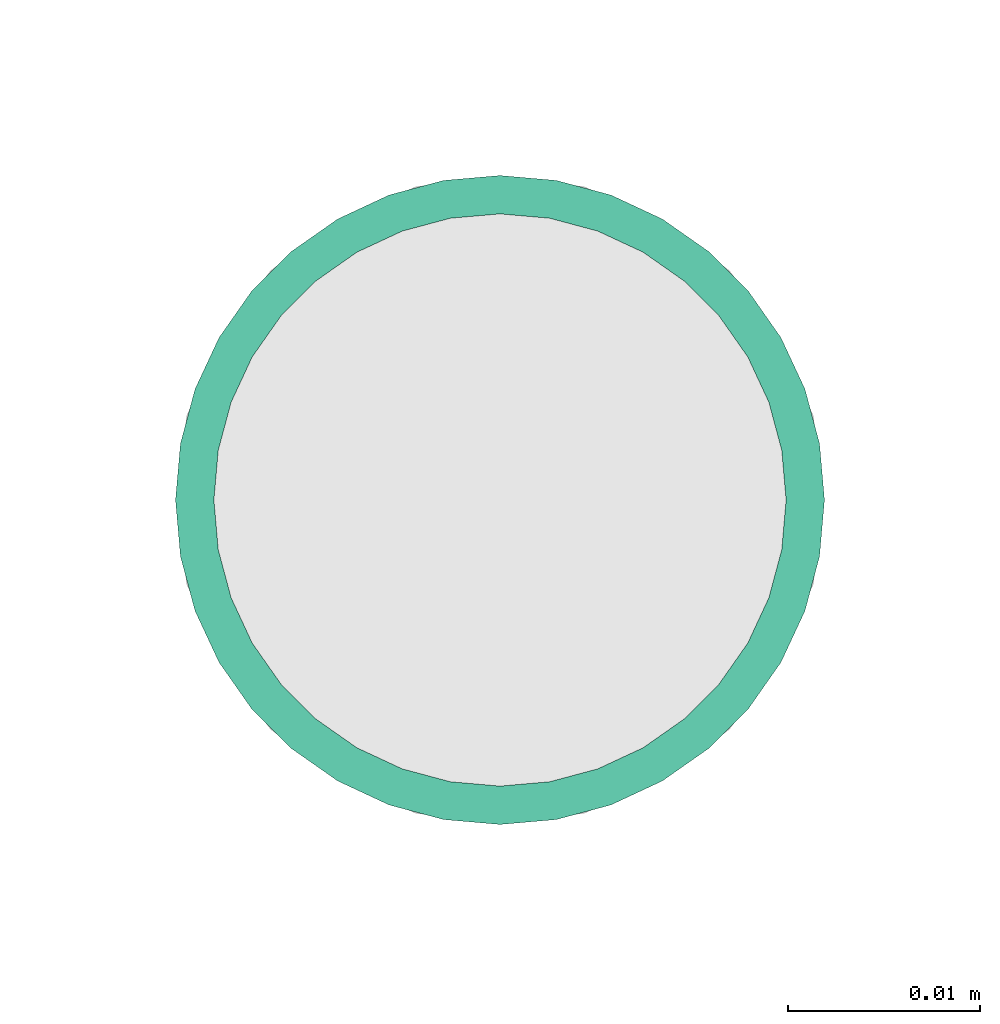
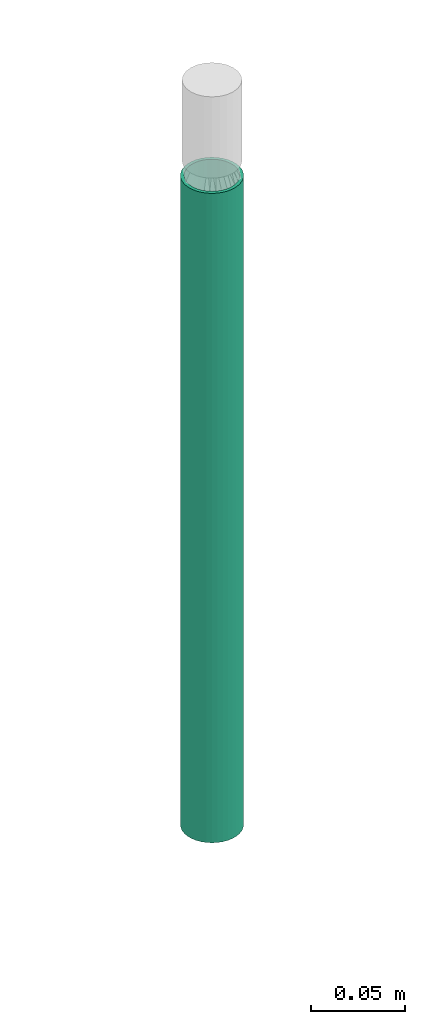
# One storey, part 10 of 14: 1 flow segment.
"""IFC2X3 building model written with IfcOpenShell, lengths in millimetres."""

from ifc_helpers import new_model, entity, si_unit, converted_unit, derived_unit, direction, frame, place, context, subcontext, project, spatial, faceted_brep, type_object, element, save


model = new_model("IFC2X3")

# Units and contexts
model_context = context("Model", 3, precision=0.01, world=frame((0.0, 4.29681676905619e-09, 0.0)), true_north=direction((4.01073788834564e-13, 1.0)))
plan_context = context("Plan", 3, precision=0.01, world=frame((0.0, 4.29681676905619e-09, 0.0)), true_north=direction((4.01073788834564e-13, 1.0)))
body_context = subcontext(model_context, "Body", "Model", "MODEL_VIEW")
ifc_project = project(units=[converted_unit("PLANEANGLEUNIT", "DEGREE", entity("IfcPositiveLengthMeasure", 0.0174532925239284), si_unit("PLANEANGLEUNIT", "RADIAN"), dimensions=[0, 0, 0, 0, 0, 0, 0]), si_unit("AREAUNIT", "SQUARE_METRE"), si_unit("LENGTHUNIT", "METRE", prefix="MILLI"), si_unit("MASSUNIT", "GRAM", prefix="KILO"), si_unit("POWERUNIT", "WATT"), si_unit("PRESSUREUNIT", "PASCAL", prefix="KILO"), si_unit("FORCEUNIT", "NEWTON", prefix="KILO"), si_unit("ELECTRICVOLTAGEUNIT", "VOLT"), si_unit("ELECTRICCURRENTUNIT", "AMPERE"), si_unit("THERMODYNAMICTEMPERATUREUNIT", "DEGREE_CELSIUS"), si_unit("TIMEUNIT", "SECOND"), si_unit("VOLUMEUNIT", "CUBIC_METRE"), derived_unit("LINEARVELOCITYUNIT", [(si_unit("LENGTHUNIT", "METRE"), 1), (si_unit("TIMEUNIT", "SECOND"), -1)]), derived_unit("VOLUMETRICFLOWRATEUNIT", [(si_unit("VOLUMEUNIT", "CUBIC_METRE"), 1), (si_unit("TIMEUNIT", "SECOND"), -1)]), derived_unit("THERMALTRANSMITTANCEUNIT", [(si_unit("POWERUNIT", "WATT"), 1), (si_unit("THERMODYNAMICTEMPERATUREUNIT", "KELVIN"), -1), (si_unit("AREAUNIT", "SQUARE_METRE"), -1)]), derived_unit("SOUNDPRESSUREUNIT", [(si_unit("PRESSUREUNIT", "PASCAL"), 1)])], contexts=[model_context, plan_context])

# Site, building, storey
site_placement = place(None, frame((0.0, -4.29681676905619e-09, 0.0), z_axis=(0.0, 0.0, 1.0), x_axis=(1.0, 0.0, 0.0)))
site = spatial("IfcSite", under=ifc_project, at=site_placement, CompositionType="ELEMENT")
building_placement = place(site_placement, frame((0.0, 4.29681676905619e-09, 0.0), z_axis=(0.0, 0.0, 1.0), x_axis=(1.0, 0.0, 0.0)))
building = spatial("IfcBuilding", under=site, at=building_placement, Name="mc-building", CompositionType="ELEMENT")
storey_placement = place(building_placement, frame((0.0, 0.0, 204000.0), z_axis=(0.0, 0.0, 1.0), x_axis=(1.0, 0.0, 0.0)))
storey = spatial("IfcBuildingStorey", under=building, at=storey_placement, Name="Nivå D", CompositionType="ELEMENT", Elevation=204000.0)

# Flow segment
pipe_segment_type = type_object("IfcPipeSegmentType", Name="Stålrør normaltykke", PredefinedType="RIGIDSEGMENT")
flow_segment_placement = place(storey_placement, frame((588700.0, 573505.33925, 5536.29999999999), z_axis=(0.0, 1.0, 0.0), x_axis=(0.0, 0.0, 1.0)))
element("IfcFlowSegment", 1, at=flow_segment_placement, inside=storey, type_object=pipe_segment_type, Name="Stålrør normaltykke", context=body_context, shape_type="Brep", body=[
    faceted_brep([(363.700000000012, 14.6736355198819, -2.58735784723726), (363.700000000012, 14.9, 0.0), (787.3, 14.9, 0.0), (787.3, 14.6736355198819, -2.58735784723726), (363.700000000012, 14.00142004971, -5.09610013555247), (787.3, 14.00142004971, -5.09610013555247), (363.700000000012, 12.9037785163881, -7.45), (787.3, 12.9037785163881, -7.45000000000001), (363.700000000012, 11.4140622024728, -9.57753538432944), (787.3, 11.4140622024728, -9.57753538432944), (363.700000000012, 9.57753538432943, -11.4140622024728), (787.3, 9.57753538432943, -11.4140622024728), (363.700000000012, 7.45, -12.9037785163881), (787.3, 7.45, -12.9037785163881), (363.700000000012, 5.09610013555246, -14.00142004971), (787.3, 5.09610013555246, -14.00142004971), (363.700000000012, 2.58735784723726, -14.6736355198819), (787.3, 2.58735784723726, -14.6736355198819), (363.700000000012, -2.73708559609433e-15, -14.9), (787.3, -2.73708559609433e-15, -14.9), (363.700000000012, -2.58735784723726, -14.6736355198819), (787.3, -2.58735784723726, -14.6736355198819), (363.700000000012, -5.09610013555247, -14.00142004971), (787.3, -5.09610013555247, -14.00142004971), (363.700000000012, -7.45, -12.9037785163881), (787.3, -7.45000000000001, -12.9037785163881), (363.700000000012, -9.57753538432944, -11.4140622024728), (787.3, -9.57753538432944, -11.4140622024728), (363.700000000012, -11.4140622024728, -9.57753538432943), (787.3, -11.4140622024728, -9.57753538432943), (363.700000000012, -12.9037785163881, -7.44999999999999), (787.3, -12.9037785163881, -7.44999999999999), (363.700000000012, -14.00142004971, -5.09610013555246), (787.3, -14.00142004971, -5.09610013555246), (363.700000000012, -14.6736355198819, -2.58735784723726), (787.3, -14.6736355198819, -2.58735784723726), (363.700000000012, -14.9, 1.82472373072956e-15), (787.3, -14.9, 1.82472373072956e-15), (363.700000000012, -14.6736355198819, 2.58735784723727), (787.3, -14.6736355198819, 2.58735784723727), (363.700000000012, -14.00142004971, 5.09610013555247), (787.3, -14.00142004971, 5.09610013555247), (363.700000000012, -12.9037785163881, 7.45), (787.3, -12.9037785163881, 7.45), (363.700000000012, -11.4140622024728, 9.57753538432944), (787.3, -11.4140622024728, 9.57753538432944), (363.700000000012, -9.57753538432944, 11.4140622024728), (787.3, -9.57753538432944, 11.4140622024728), (363.700000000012, -7.45, 12.9037785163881), (787.3, -7.45, 12.9037785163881), (363.700000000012, -5.09610013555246, 14.00142004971), (787.3, -5.09610013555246, 14.00142004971), (363.700000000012, -2.58735784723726, 14.6736355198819), (787.3, -2.58735784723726, 14.6736355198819), (363.700000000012, 9.12361865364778e-16, 14.9), (787.3, 9.12361865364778e-16, 14.9), (363.700000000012, 2.58735784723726, 14.6736355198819), (787.3, 2.58735784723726, 14.6736355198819), (363.700000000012, 5.09610013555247, 14.00142004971), (787.3, 5.09610013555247, 14.00142004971), (363.700000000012, 7.45, 12.9037785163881), (787.3, 7.45, 12.9037785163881), (363.700000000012, 9.57753538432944, 11.4140622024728), (787.3, 9.57753538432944, 11.4140622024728), (363.700000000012, 11.4140622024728, 9.57753538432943), (787.3, 11.4140622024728, 9.57753538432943), (363.700000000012, 12.9037785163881, 7.45), (787.3, 12.9037785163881, 7.45), (363.700000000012, 14.00142004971, 5.09610013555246), (787.3, 14.00142004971, 5.09610013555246), (363.700000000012, 14.6736355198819, 2.58735784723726), (787.3, 14.6736355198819, 2.58735784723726), (363.700000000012, 16.9, 0.0), (363.700000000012, 16.6432510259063, -2.93465420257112), (787.3, 16.6432510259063, -2.93465420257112), (787.3, 16.9, 0.0), (363.700000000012, 16.6432510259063, 2.93465420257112), (787.3, 16.6432510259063, 2.93465420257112), (363.700000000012, 15.8808052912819, 5.7801404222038), (787.3, 15.8808052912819, 5.7801404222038), (363.700000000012, 14.635829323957, 8.45), (787.3, 14.635829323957, 8.45), (363.700000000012, 12.9461510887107, 10.8631106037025), (787.3, 12.9461510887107, 10.8631106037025), (363.700000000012, 10.8631106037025, 12.9461510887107), (787.3, 10.8631106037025, 12.9461510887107), (363.700000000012, 8.45, 14.635829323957), (787.3, 8.45, 14.635829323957), (363.700000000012, 5.7801404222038, 15.8808052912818), (787.3, 5.7801404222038, 15.8808052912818), (363.700000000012, 2.93465420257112, 16.6432510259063), (787.3, 2.93465420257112, 16.6432510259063), (363.700000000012, 1.03482654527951e-15, 16.9), (787.3, 1.03482654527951e-15, 16.9), (363.700000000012, -2.93465420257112, 16.6432510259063), (787.3, -2.93465420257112, 16.6432510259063), (363.700000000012, -5.7801404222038, 15.8808052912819), (787.3, -5.7801404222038, 15.8808052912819), (363.700000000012, -8.45, 14.635829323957), (787.3, -8.45, 14.635829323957), (363.700000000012, -10.8631106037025, 12.9461510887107), (787.3, -10.8631106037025, 12.9461510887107), (363.700000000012, -12.9461510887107, 10.8631106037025), (787.3, -12.9461510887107, 10.8631106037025), (363.700000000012, -14.635829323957, 8.45), (787.3, -14.635829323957, 8.45), (363.700000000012, -15.8808052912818, 5.7801404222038), (787.3, -15.8808052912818, 5.7801404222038), (363.700000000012, -16.6432510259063, 2.93465420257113), (787.3, -16.6432510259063, 2.93465420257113), (363.700000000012, -16.9, 2.06965309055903e-15), (787.3, -16.9, 2.06965309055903e-15), (363.700000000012, -16.6432510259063, -2.93465420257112), (787.3, -16.6432510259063, -2.93465420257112), (363.700000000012, -15.8808052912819, -5.7801404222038), (787.3, -15.8808052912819, -5.7801404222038), (363.700000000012, -14.635829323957, -8.44999999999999), (787.3, -14.635829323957, -8.44999999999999), (363.700000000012, -12.9461510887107, -10.8631106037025), (787.3, -12.9461510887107, -10.8631106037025), (363.700000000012, -10.8631106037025, -12.9461510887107), (787.3, -10.8631106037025, -12.9461510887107), (363.700000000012, -8.45000000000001, -14.635829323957), (787.3, -8.45000000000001, -14.635829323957), (363.700000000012, -5.78014042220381, -15.8808052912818), (787.3, -5.78014042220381, -15.8808052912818), (363.700000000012, -2.93465420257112, -16.6432510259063), (787.3, -2.93465420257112, -16.6432510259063), (363.700000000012, -3.10447963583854e-15, -16.9), (787.3, -3.10447963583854e-15, -16.9), (363.700000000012, 2.93465420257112, -16.6432510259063), (787.3, 2.93465420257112, -16.6432510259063), (363.700000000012, 5.78014042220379, -15.8808052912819), (787.3, 5.78014042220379, -15.8808052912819), (363.700000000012, 8.45, -14.635829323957), (787.3, 8.45, -14.635829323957), (363.700000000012, 10.8631106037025, -12.9461510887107), (787.3, 10.8631106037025, -12.9461510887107), (363.700000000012, 12.9461510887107, -10.8631106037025), (787.3, 12.9461510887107, -10.8631106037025), (363.700000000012, 14.635829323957, -8.45000000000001), (787.3, 14.635829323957, -8.45000000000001), (363.700000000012, 15.8808052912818, -5.78014042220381), (787.3, 15.8808052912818, -5.78014042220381)], [[[0, 1, 2, 3]], [[4, 0, 3, 5]], [[6, 4, 5, 7]], [[8, 6, 7, 9]], [[10, 8, 9, 11]], [[12, 10, 11, 13]], [[14, 12, 13, 15]], [[16, 14, 15, 17]], [[18, 16, 17, 19]], [[20, 18, 19, 21]], [[22, 20, 21, 23]], [[24, 22, 23, 25]], [[26, 24, 25, 27]], [[28, 26, 27, 29]], [[30, 28, 29, 31]], [[32, 30, 31, 33]], [[34, 32, 33, 35]], [[36, 34, 35, 37]], [[38, 36, 37, 39]], [[40, 38, 39, 41]], [[42, 40, 41, 43]], [[44, 42, 43, 45]], [[46, 44, 45, 47]], [[48, 46, 47, 49]], [[50, 48, 49, 51]], [[52, 50, 51, 53]], [[54, 52, 53, 55]], [[56, 54, 55, 57]], [[58, 56, 57, 59]], [[60, 58, 59, 61]], [[62, 60, 61, 63]], [[64, 62, 63, 65]], [[66, 64, 65, 67]], [[68, 66, 67, 69]], [[70, 68, 69, 71]], [[1, 70, 71, 2]], [[72, 73, 74, 75]], [[76, 72, 75, 77]], [[78, 76, 77, 79]], [[80, 78, 79, 81]], [[82, 80, 81, 83]], [[84, 82, 83, 85]], [[86, 84, 85, 87]], [[88, 86, 87, 89]], [[90, 88, 89, 91]], [[92, 90, 91, 93]], [[94, 92, 93, 95]], [[96, 94, 95, 97]], [[98, 96, 97, 99]], [[100, 98, 99, 101]], [[102, 100, 101, 103]], [[104, 102, 103, 105]], [[106, 104, 105, 107]], [[108, 106, 107, 109]], [[110, 108, 109, 111]], [[112, 110, 111, 113]], [[114, 112, 113, 115]], [[116, 114, 115, 117]], [[118, 116, 117, 119]], [[120, 118, 119, 121]], [[122, 120, 121, 123]], [[124, 122, 123, 125]], [[126, 124, 125, 127]], [[128, 126, 127, 129]], [[130, 128, 129, 131]], [[132, 130, 131, 133]], [[134, 132, 133, 135]], [[136, 134, 135, 137]], [[138, 136, 137, 139]], [[140, 138, 139, 141]], [[142, 140, 141, 143]], [[73, 142, 143, 74]], [[75, 74, 143, 141, 139, 137, 135, 133, 131, 129, 127, 125, 123, 121, 119, 117, 115, 113, 111, 109, 107, 105, 103, 101, 99, 97, 95, 93, 91, 89, 87, 85, 83, 81, 79, 77], [2, 71, 69, 67, 65, 63, 61, 59, 57, 55, 53, 51, 49, 47, 45, 43, 41, 39, 37, 35, 33, 31, 29, 27, 25, 23, 21, 19, 17, 15, 13, 11, 9, 7, 5, 3]], [[76, 78, 80, 82, 84, 86, 88, 90, 92, 94, 96, 98, 100, 102, 104, 106, 108, 110, 112, 114, 116, 118, 120, 122, 124, 126, 128, 130, 132, 134, 136, 138, 140, 142, 73, 72], [4, 6, 8, 10, 12, 14, 16, 18, 20, 22, 24, 26, 28, 30, 32, 34, 36, 38, 40, 42, 44, 46, 48, 50, 52, 54, 56, 58, 60, 62, 64, 66, 68, 70, 1, 0]]], orient=[[False], [False], [False], [False], [False], [False], [False], [False], [False], [False], [False], [False], [False], [False], [False], [False], [False], [False], [False], [False], [False], [False], [False], [False], [False], [False], [False], [False], [False], [False], [False], [False], [False], [False], [False], [False], [False], [False], [False], [False], [False], [False], [False], [False], [False], [False], [False], [False], [False], [False], [False], [False], [False], [False], [False], [False], [False], [False], [False], [False], [False], [False], [False], [False], [False], [False], [False], [False], [False], [False], [False], [False], [False, False], [False, False]]),
])

save(model, "model.ifc")
